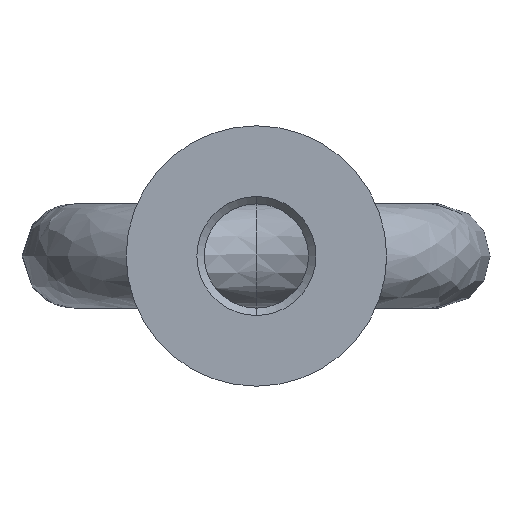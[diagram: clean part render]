
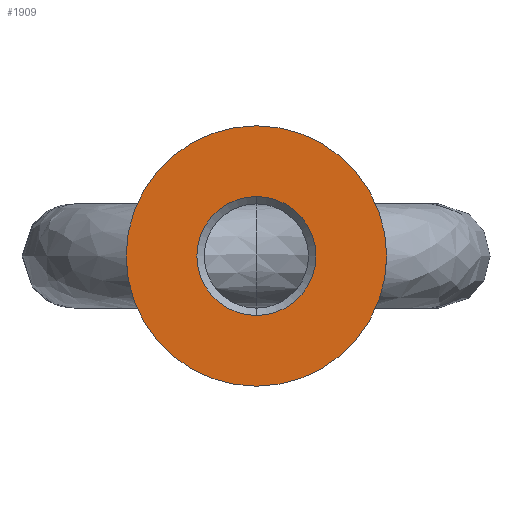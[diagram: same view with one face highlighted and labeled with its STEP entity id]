
A CAD part, front view. The second image highlights one B-rep face of the part: STEP entity #1909.
In plain terms, the highlighted planar face has unit normal (0, -1, 0).
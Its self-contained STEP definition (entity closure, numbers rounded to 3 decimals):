
#196 = ORIENTED_EDGE ( 'NONE', *, *, #2451, .T. ) ;
#365 = VERTEX_POINT ( 'NONE', #1524 ) ;
#484 = CARTESIAN_POINT ( 'NONE',  ( 0., 0., 0. ) ) ;
#636 = DIRECTION ( 'NONE',  ( 0., 0., 1. ) ) ;
#656 = EDGE_CURVE ( 'NONE', #1004, #1943, #1868, .T. ) ;
#740 = CARTESIAN_POINT ( 'NONE',  ( 0., 0., 17.5 ) ) ;
#793 = EDGE_CURVE ( 'NONE', #365, #2254, #2172, .T. ) ;
#863 = AXIS2_PLACEMENT_3D ( 'NONE', #1337, #1612, #636 ) ;
#897 = PLANE ( 'NONE',  #2428 ) ;
#905 = CARTESIAN_POINT ( 'NONE',  ( 0., 0., -17.5 ) ) ;
#927 = DIRECTION ( 'NONE',  ( 0., 1., 0. ) ) ;
#928 = CARTESIAN_POINT ( 'NONE',  ( 0., 0., 0. ) ) ;
#1004 = VERTEX_POINT ( 'NONE', #905 ) ;
#1337 = CARTESIAN_POINT ( 'NONE',  ( 0., 0., 0. ) ) ;
#1386 = FACE_OUTER_BOUND ( 'NONE', #2539, .T. ) ;
#1429 = CARTESIAN_POINT ( 'NONE',  ( 0., 0., 8. ) ) ;
#1524 = CARTESIAN_POINT ( 'NONE',  ( 0., 0., -8. ) ) ;
#1526 = ORIENTED_EDGE ( 'NONE', *, *, #2296, .F. ) ;
#1579 = EDGE_LOOP ( 'NONE', ( #1961, #196 ) ) ;
#1612 = DIRECTION ( 'NONE',  ( 0., 1., 0. ) ) ;
#1840 = DIRECTION ( 'NONE',  ( 0., 1., 0. ) ) ;
#1868 = CIRCLE ( 'NONE', #863, 17.5 ) ;
#1909 = ADVANCED_FACE ( 'NONE', ( #2121, #1386 ), #897, .T. ) ;
#1943 = VERTEX_POINT ( 'NONE', #740 ) ;
#1961 = ORIENTED_EDGE ( 'NONE', *, *, #793, .T. ) ;
#2086 = AXIS2_PLACEMENT_3D ( 'NONE', #484, #927, #3132 ) ;
#2121 = FACE_BOUND ( 'NONE', #1579, .T. ) ;
#2152 = DIRECTION ( 'NONE',  ( 0., 1., 0. ) ) ;
#2172 = CIRCLE ( 'NONE', #2293, 8. ) ;
#2176 = CIRCLE ( 'NONE', #2488, 8. ) ;
#2187 = DIRECTION ( 'NONE',  ( 0., 0., -1. ) ) ;
#2254 = VERTEX_POINT ( 'NONE', #1429 ) ;
#2293 = AXIS2_PLACEMENT_3D ( 'NONE', #2772, #1840, #3015 ) ;
#2296 = EDGE_CURVE ( 'NONE', #1943, #1004, #2628, .T. ) ;
#2428 = AXIS2_PLACEMENT_3D ( 'NONE', #928, #2828, #2613 ) ;
#2451 = EDGE_CURVE ( 'NONE', #2254, #365, #2176, .T. ) ;
#2488 = AXIS2_PLACEMENT_3D ( 'NONE', #2843, #2152, #2187 ) ;
#2539 = EDGE_LOOP ( 'NONE', ( #2809, #1526 ) ) ;
#2613 = DIRECTION ( 'NONE',  ( 0., 0., -1. ) ) ;
#2628 = CIRCLE ( 'NONE', #2086, 17.5 ) ;
#2772 = CARTESIAN_POINT ( 'NONE',  ( 0., 0., 0. ) ) ;
#2809 = ORIENTED_EDGE ( 'NONE', *, *, #656, .F. ) ;
#2828 = DIRECTION ( 'NONE',  ( 0., -1., 0. ) ) ;
#2843 = CARTESIAN_POINT ( 'NONE',  ( 0., 0., 0. ) ) ;
#3015 = DIRECTION ( 'NONE',  ( 0., 0., -1. ) ) ;
#3132 = DIRECTION ( 'NONE',  ( 0., 0., 1. ) ) ;
